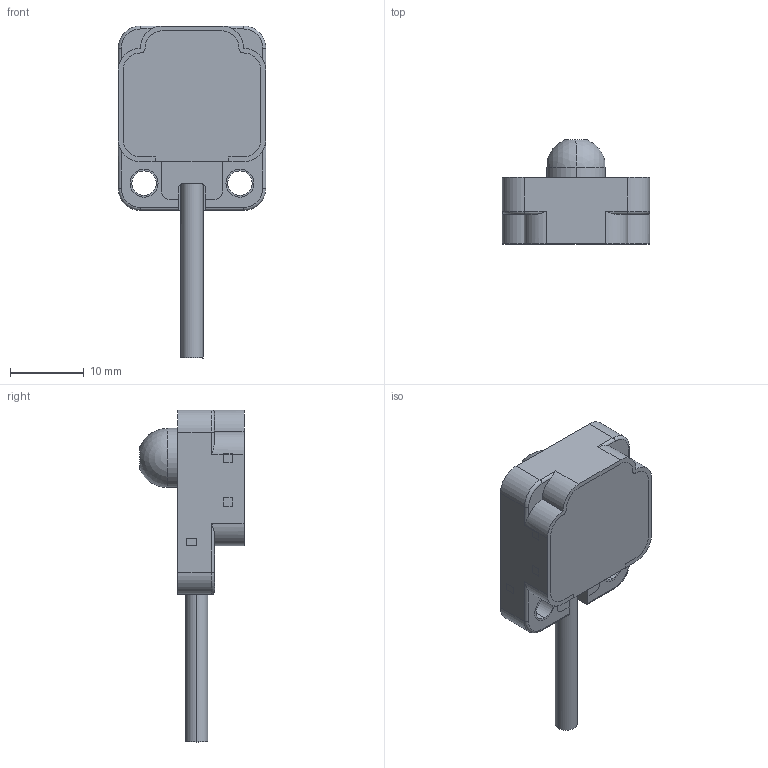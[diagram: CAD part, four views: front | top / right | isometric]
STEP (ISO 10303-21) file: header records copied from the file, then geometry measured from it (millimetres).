
FILE_DESCRIPTION (( 'STEP AP203' ), '1' );
FILE_NAME ('BS5-P1ML_BS5-P1ML-P_BS5-P1MD_BS5-P1MD-P.STEP', '2018-07-19T02:37:02', ( 'Registered User' ), ( 'Microsoft Corporation' ), 'SwSTEP 2.0', 'SolidWorks 2015', '' );
FILE_SCHEMA (( 'CONFIG_CONTROL_DESIGN' ));
Length unit declared in the file: millimetre
Products named in the file (1): BS5-P1ML_BS5-P1ML-P_BS5-P1MD_BS5-P1MD-P
Bounding box: 20 x 14.1 x 45 mm (x, y, z)
Volume: 3998 mm3; surface area: 2060.3 mm2
Topology: 1 solids, 1 shells, 200 faces, 537 edges, 364 vertices
Faces by surface type: plane 134, cylinder 30, bspline 26, cone 4, torus 4, sphere 2
Entity records: 6558 total; most frequent: CARTESIAN_POINT 1564, ORIENTED_EDGE 1066, DIRECTION 909, EDGE_CURVE 533, VECTOR 387, LINE 387, VERTEX_POINT 362, AXIS2_PLACEMENT_3D 261
